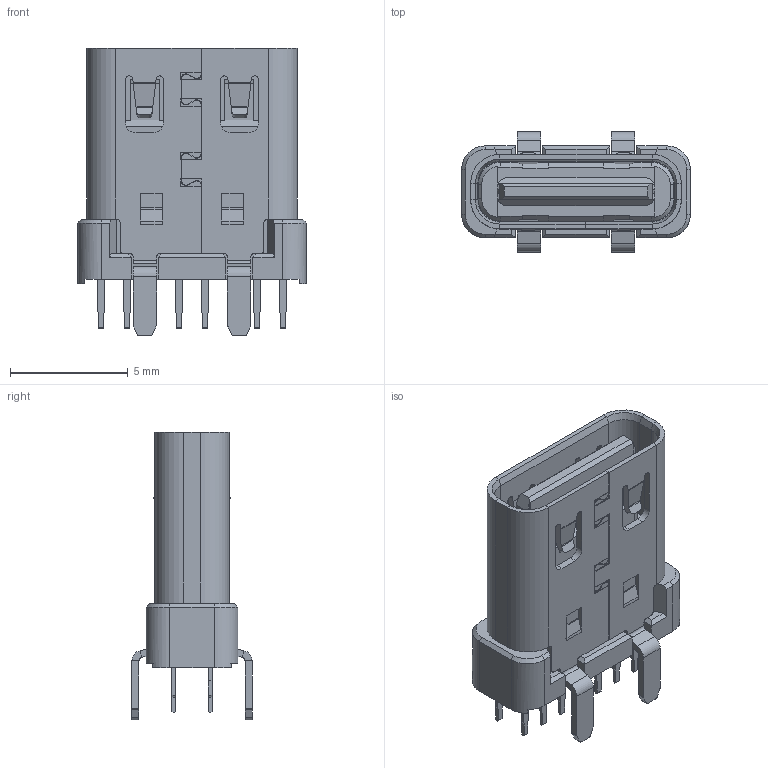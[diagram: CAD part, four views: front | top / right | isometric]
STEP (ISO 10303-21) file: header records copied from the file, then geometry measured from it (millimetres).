
FILE_DESCRIPTION((''),'2;1');
FILE_NAME('16P_H_10_0_3D','2025-08-18T',('PMT1 SFT'),(''),'PRO/ENGINEER BY PARAMETRIC TECHNOLOGY CORPORATION, 2011490','PRO/ENGINEER BY PARAMETRIC TECHNOLOGY CORPORATION, 2011490','');
FILE_SCHEMA(('CONFIG_CONTROL_DESIGN'));
Length unit declared in the file: millimetre
Products named in the file (1): 16P_H_10_0_3D
Bounding box: 9.7 x 5.1 x 12.2 mm (x, y, z)
Volume: 202.2 mm3; surface area: 689.9 mm2
Topology: 1 solids, 1 shells, 922 faces, 2463 edges, 1562 vertices
Faces by surface type: plane 747, cylinder 159, cone 16
Entity records: 28288 total; most frequent: CARTESIAN_POINT 5220, ORIENTED_EDGE 4926, DIRECTION 4525, EDGE_CURVE 2463, VECTOR 2109, LINE 2109, VERTEX_POINT 1562, AXIS2_PLACEMENT_3D 1208
